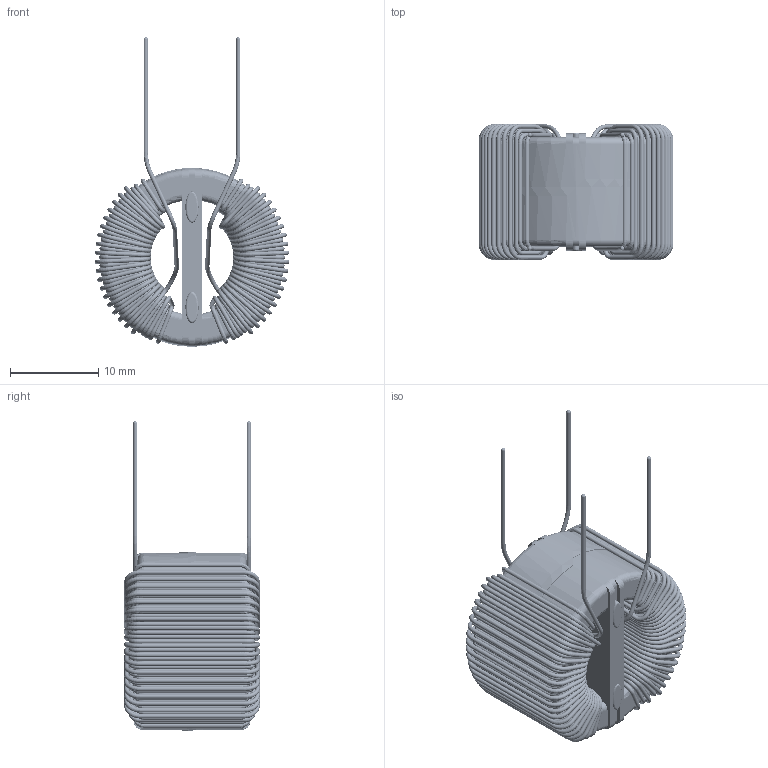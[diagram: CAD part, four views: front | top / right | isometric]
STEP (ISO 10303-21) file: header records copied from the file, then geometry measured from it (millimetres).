
FILE_DESCRIPTION (( 'STEP AP203' ), '1' );
FILE_NAME ('GN-V-303U-2A.STEP', '2020-08-05T14:06:20', ( 'Windows User' ), ( '' ), 'SwSTEP 2.0', 'SolidWorks 2015', '' );
FILE_SCHEMA (( 'CONFIG_CONTROL_DESIGN' ));
Length unit declared in the file: inch
Products named in the file (4): GN-V-303U-2A; GN-V-303U-2A - CORE; GN-V-303U-2A - COIL; GN-V-303U-2A - FRAME
Assembly tree (3 placements, depth 2):
  GN-V-303U-2A
    GN-V-303U-2A - CORE
    GN-V-303U-2A - COIL
    GN-V-303U-2A - FRAME
Bounding box: 22.08 x 15.37 x 35.13 mm (x, y, z)
Volume: 3581.7 mm3; surface area: 9170.3 mm2
Topology: 12 solids, 12 shells, 2332 faces, 7194 edges, 4726 vertices
Faces by surface type: cylinder 1144, torus 880, bspline 224, plane 84
Entity records: 104440 total; most frequent: CARTESIAN_POINT 37506, DIRECTION 15400, ORIENTED_EDGE 14388, EDGE_CURVE 7194, AXIS2_PLACEMENT_3D 7036, CIRCLE 4922, VERTEX_POINT 4726, EDGE_LOOP 2422
